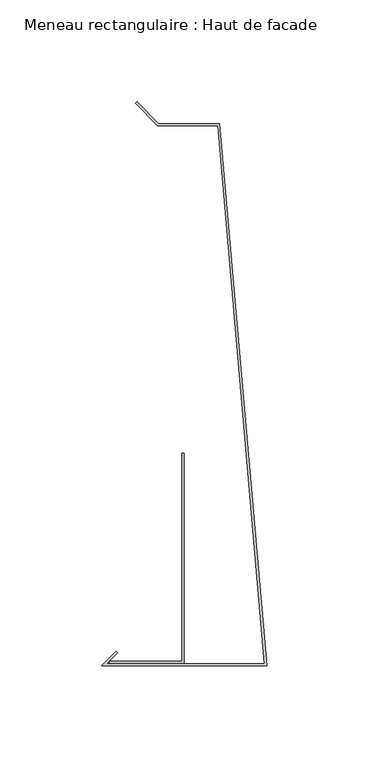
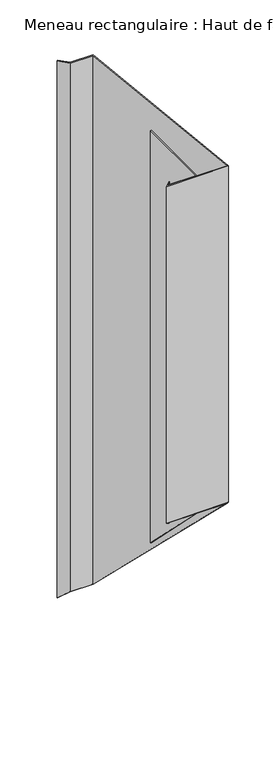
"""IFC4 building model written with IfcOpenShell, lengths in millimetres: member geometry, Meneau rectangulaire : Haut de facade."""

from ifc_helpers import new_model, si_unit, origin, place, context, project, spatial, faceted_brep, source, transform, mapped, element, save


def meneau_rectangulaire_haut_de_facade_8eac4081(model_context):
    return source(origin(), model_context, "Body", "Brep", [
        faceted_brep([(-24.0647895, 160.703755, 0.0), (-1.0913085, -103.2, 0.0), (-78.5857864, -103.2, 0.0), (-73.2218254, -97.836039, 0.0), (-73.9289322, -97.1289322, 0.0), (-81.0, -104.2, 0.0), (0.0, -104.2, 0.0), (-23.1484584, 161.703755, 0.0), (-53.1484584, 161.703755, 0.0), (-63.7550601, 172.3103567, 0.0), (-64.4621669, 171.6032499, 0.0), (-53.5626719, 160.703755, 0.0), (-24.0647895, 160.703755, -728.703755), (-1.0913085, -103.2, -464.8), (-78.5857864, -103.2, -464.8), (-73.2218254, -97.836039, -470.163961), (-73.9289322, -97.1289322, -470.8710678), (-81.0, -104.2, -463.8), (0.0, -104.2, -463.8), (-23.1484584, 161.703755, -729.703755), (-53.1484584, 161.703755, -729.703755), (-63.7550601, 172.3103567, -740.3103567), (-64.4621669, 171.6032499, -739.6032499), (-53.5626719, 160.703755, -728.703755)], [[[0, 1, 2, 3, 4, 5, 6, 7, 8, 9, 10, 11]], [[1, 0, 12, 13]], [[2, 1, 13, 14]], [[3, 2, 14, 15]], [[4, 3, 15, 16]], [[5, 4, 16, 17]], [[6, 5, 17, 18]], [[7, 6, 18, 19]], [[8, 7, 19, 20]], [[9, 8, 20, 21]], [[10, 9, 21, 22]], [[11, 10, 22, 23]], [[0, 11, 23, 12]], [[12, 23, 22, 21, 20, 19, 18, 17, 16, 15, 14, 13]]]),
        faceted_brep([(-40.5477541, -102.9846816, 0.0), (-40.5477541, -0.0384227, 0.0), (-41.5477541, -0.0384227, 0.0), (-41.5477541, -101.9846816, 0.0), (-77.0752814, -101.9846816, 0.0), (-77.0752814, -102.9846816, 0.0), (-40.5477541, -102.9846816, -465.0153184), (-40.5477541, -0.0384227, -567.9615773), (-41.5477541, -0.0384227, -567.9615773), (-41.5477541, -101.9846816, -466.0153184), (-77.0752814, -101.9846816, -466.0153184), (-77.0752814, -102.9846816, -465.0153184)], [[[0, 1, 2, 3, 4, 5]], [[1, 0, 6, 7]], [[2, 1, 7, 8]], [[3, 2, 8, 9]], [[4, 3, 9, 10]], [[5, 4, 10, 11]], [[0, 5, 11, 6]], [[6, 11, 10, 9, 8, 7]]]),
    ])


if __name__ == "__main__":
    model = new_model("IFC4")
    model_context = context("Model", 3, world=origin())
    ifc_project = project(units=[si_unit("LENGTHUNIT", "METRE", prefix="MILLI")], contexts=[model_context])
    site = spatial("IfcSite", under=ifc_project)
    building = spatial("IfcBuilding", under=site)
    placement = place(None, origin())
    meneau_rectangulaire_haut_de_facade_shape = meneau_rectangulaire_haut_de_facade_8eac4081(model_context)
    element("IfcMember", 1, ObjectType="Meneau rectangulaire : Haut de facade", at=placement, inside=building, context=model_context, shape_type="MappedRepresentation", body=[
        mapped(meneau_rectangulaire_haut_de_facade_shape, transform((0.0, 0.0, 0.0), x_axis=(1.0, 0.0, 0.0), y_axis=(0.0, 1.0, 0.0), z_axis=(0.0, 0.0, 1.0))),
    ])
    save(model, "model.ifc")
